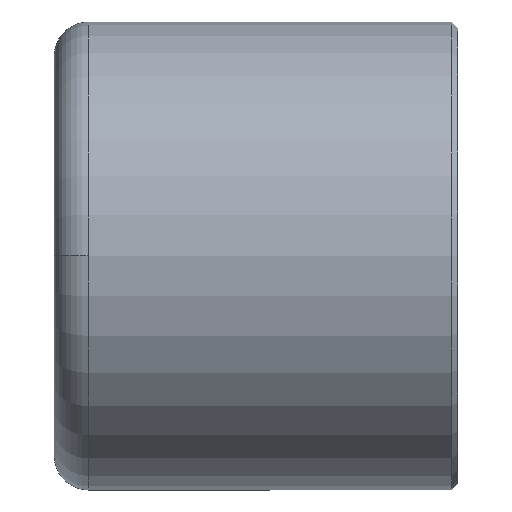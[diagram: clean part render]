
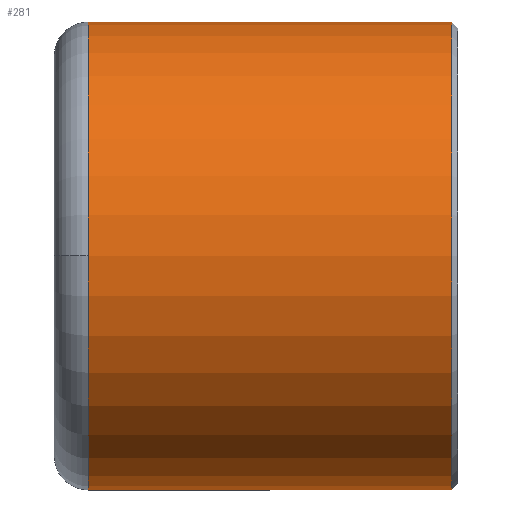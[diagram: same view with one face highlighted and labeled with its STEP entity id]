
A CAD part, top view. The second image highlights one B-rep face of the part: STEP entity #281.
In plain terms, the highlighted cylindrical face has radius 7.6 mm (diameter 15.2 mm), a partial arc.
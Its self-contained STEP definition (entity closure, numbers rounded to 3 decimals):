
#78=CARTESIAN_POINT('',(-5.75,0.,7.6));
#79=VERTEX_POINT('',#78);
#87=CARTESIAN_POINT('',(-5.75,7.6,0.0));
#88=VERTEX_POINT('',#87);
#89=CARTESIAN_POINT('',(-5.75,0.,0.0));
#90=DIRECTION('',(1.0,0.0,0.0));
#91=DIRECTION('',(0.0,1.0,0.0));
#92=AXIS2_PLACEMENT_3D('',#89,#90,#91);
#93=CIRCLE('',#92,7.6);
#94=EDGE_CURVE('',#88,#79,#93,.T.);
#241=CARTESIAN_POINT('',(0.25,0.,0.0));
#242=DIRECTION('',(1.0,0.,0.0));
#243=DIRECTION('',(0.0,1.0,0.0));
#244=AXIS2_PLACEMENT_3D('',#241,#242,#243);
#245=CYLINDRICAL_SURFACE('',#244,7.6);
#246=CARTESIAN_POINT('',(6.05,7.6,0.));
#247=VERTEX_POINT('',#246);
#248=CARTESIAN_POINT('',(-5.75,7.6,0.0));
#249=DIRECTION('',(1.0,0.0,0.0));
#250=VECTOR('',#249,11.8);
#251=LINE('',#248,#250);
#252=EDGE_CURVE('',#88,#247,#251,.T.);
#253=ORIENTED_EDGE('',*,*,#252,.F.);
#254=ORIENTED_EDGE('',*,*,#94,.T.);
#255=CARTESIAN_POINT('',(-5.75,-7.6,0.));
#256=VERTEX_POINT('',#255);
#257=CARTESIAN_POINT('',(-5.75,0.,0.0));
#258=DIRECTION('',(1.0,0.0,0.0));
#259=DIRECTION('',(0.0,1.0,0.0));
#260=AXIS2_PLACEMENT_3D('',#257,#258,#259);
#261=CIRCLE('',#260,7.6);
#262=EDGE_CURVE('',#79,#256,#261,.T.);
#263=ORIENTED_EDGE('',*,*,#262,.T.);
#264=CARTESIAN_POINT('',(6.05,-7.6,0.));
#265=VERTEX_POINT('',#264);
#266=CARTESIAN_POINT('',(6.05,-7.6,0.));
#267=DIRECTION('',(-1.0,0.0,0.0));
#268=VECTOR('',#267,11.8);
#269=LINE('',#266,#268);
#270=EDGE_CURVE('',#265,#256,#269,.T.);
#271=ORIENTED_EDGE('',*,*,#270,.F.);
#272=CARTESIAN_POINT('',(6.05,0.,0.0));
#273=DIRECTION('',(1.0,0.0,0.0));
#274=DIRECTION('',(0.0,1.0,0.0));
#275=AXIS2_PLACEMENT_3D('',#272,#273,#274);
#276=CIRCLE('',#275,7.6);
#277=EDGE_CURVE('',#247,#265,#276,.T.);
#278=ORIENTED_EDGE('',*,*,#277,.F.);
#279=EDGE_LOOP('',(#253,#254,#263,#271,#278));
#280=FACE_OUTER_BOUND('',#279,.T.);
#281=ADVANCED_FACE('',(#280),#245,.T.);
